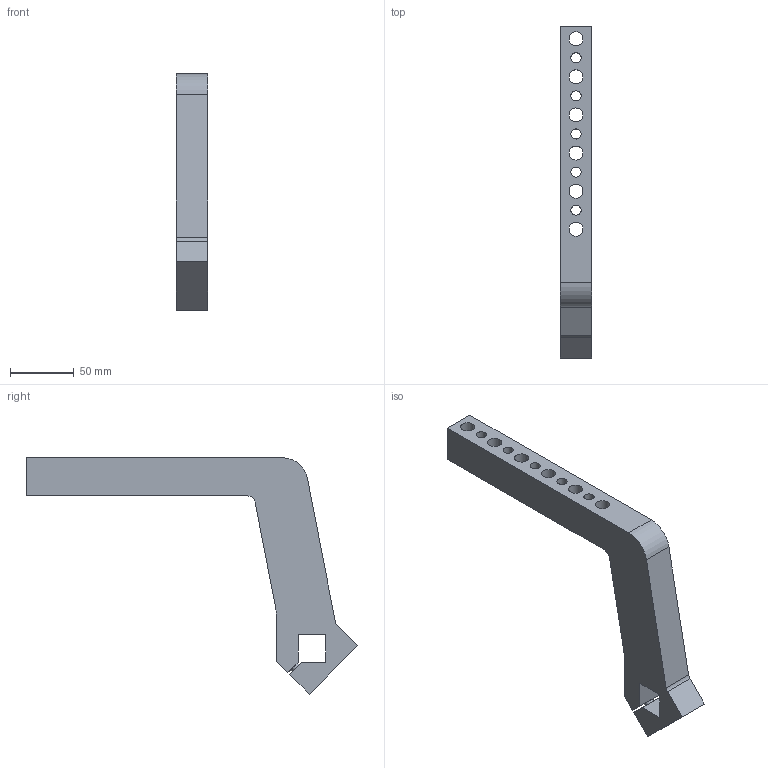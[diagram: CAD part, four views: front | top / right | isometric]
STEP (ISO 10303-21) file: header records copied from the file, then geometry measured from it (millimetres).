
FILE_DESCRIPTION(/* description */ (''),/* implementation_level */ '2;1');
FILE_NAME(/* name */ 'C:\PNX_VAULTFOLDER\Area Tecnica\Disegni\VARIE-3D\Componenti\7000\QNACA###M\QNACA046M.stp',/* time_stamp */ '2018-10-18T14:54:03+02:00',/* author */ ('donadda1'),/* organization */ ('Pneumax S.p.A.'),/* preprocessor_version */ 'ST-DEVELOPER v17',/* originating_system */ 'Autodesk Inventor 2019',/* authorisation */ '');
FILE_SCHEMA (('AUTOMOTIVE_DESIGN { 1 0 10303 214 3 1 1 }'));
Length unit declared in the file: millimetre
Products named in the file (1): QNACA046M
Bounding box: 25 x 261.06 x 186.06 mm (x, y, z)
Volume: 298835.7 mm3; surface area: 56879.4 mm2
Topology: 1 solids, 1 shells, 34 faces, 96 edges, 64 vertices
Faces by surface type: plane 18, cylinder 16
Full cylindrical faces by diameter (mm): 8 x6, 11 x6
Entity records: 1199 total; most frequent: DIRECTION 198, CARTESIAN_POINT 195, ORIENTED_EDGE 192, EDGE_CURVE 96, AXIS2_PLACEMENT_3D 67, LINE 64, VECTOR 64, VERTEX_POINT 64
